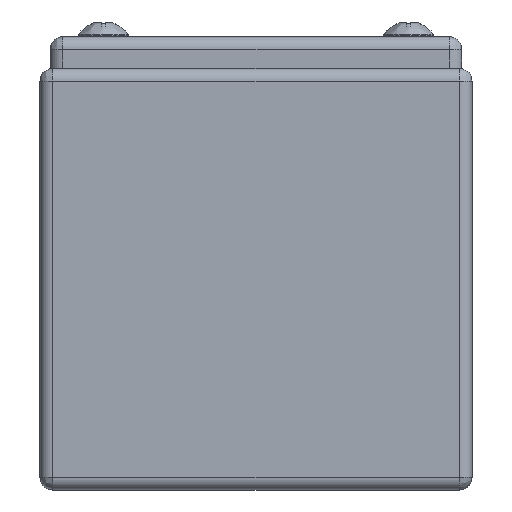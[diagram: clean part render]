
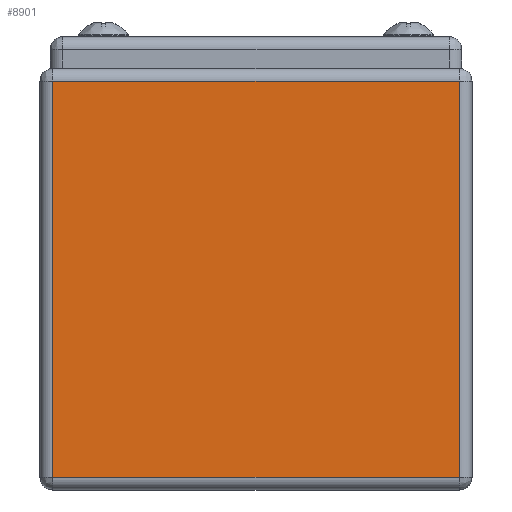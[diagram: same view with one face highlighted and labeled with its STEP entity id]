
A CAD part, front view. The second image highlights one B-rep face of the part: STEP entity #8901.
In plain terms, the highlighted planar face has unit normal (0, -1, 0).
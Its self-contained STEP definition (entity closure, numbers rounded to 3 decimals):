
#21 = EDGE_CURVE ( 'NONE', #14457, #7593, #17178, .T. ) ;
#493 = CARTESIAN_POINT ( 'NONE',  ( 0., 0., 77.6 ) ) ;
#1276 = CARTESIAN_POINT ( 'NONE',  ( 2.4, 0., 78.8 ) ) ;
#1395 = CARTESIAN_POINT ( 'NONE',  ( 79.6, 0., 78.8 ) ) ;
#1967 = EDGE_CURVE ( 'NONE', #8079, #14457, #10256, .T. ) ;
#2354 = EDGE_CURVE ( 'NONE', #7593, #10806, #5129, .T. ) ;
#4145 = ORIENTED_EDGE ( 'NONE', *, *, #21, .F. ) ;
#4776 = CARTESIAN_POINT ( 'NONE',  ( 79.6, 0., 2.4 ) ) ;
#4847 = VECTOR ( 'NONE', #11407, 1000. ) ;
#5078 = CARTESIAN_POINT ( 'NONE',  ( 2.4, 0., 2.4 ) ) ;
#5129 = LINE ( 'NONE', #1395, #4847 ) ;
#5604 = VECTOR ( 'NONE', #7821, 1000. ) ;
#7166 = DIRECTION ( 'NONE',  ( 1., 0., 0. ) ) ;
#7424 = DIRECTION ( 'NONE',  ( 0., 0., 1. ) ) ;
#7593 = VERTEX_POINT ( 'NONE', #12336 ) ;
#7821 = DIRECTION ( 'NONE',  ( -1., 0., 0. ) ) ;
#8079 = VERTEX_POINT ( 'NONE', #5078 ) ;
#8434 = EDGE_CURVE ( 'NONE', #10806, #8079, #19363, .T. ) ;
#8901 = ADVANCED_FACE ( 'NONE', ( #18649 ), #17802, .F. ) ;
#9384 = CARTESIAN_POINT ( 'NONE',  ( 0., 0., 2.4 ) ) ;
#10256 = LINE ( 'NONE', #1276, #18347 ) ;
#10695 = VECTOR ( 'NONE', #7166, 1000. ) ;
#10806 = VERTEX_POINT ( 'NONE', #4776 ) ;
#10920 = CARTESIAN_POINT ( 'NONE',  ( 0., 0., 78.8 ) ) ;
#11407 = DIRECTION ( 'NONE',  ( 0., 0., -1. ) ) ;
#12336 = CARTESIAN_POINT ( 'NONE',  ( 79.6, 0., 77.6 ) ) ;
#13256 = ORIENTED_EDGE ( 'NONE', *, *, #2354, .F. ) ;
#13564 = CARTESIAN_POINT ( 'NONE',  ( 2.4, 0., 77.6 ) ) ;
#14395 = DIRECTION ( 'NONE',  ( 0., 1., 0. ) ) ;
#14457 = VERTEX_POINT ( 'NONE', #13564 ) ;
#14697 = EDGE_LOOP ( 'NONE', ( #13256, #4145, #20017, #18632 ) ) ;
#16594 = DIRECTION ( 'NONE',  ( 0., 0., 1. ) ) ;
#17178 = LINE ( 'NONE', #493, #10695 ) ;
#17802 = PLANE ( 'NONE',  #20340 ) ;
#18347 = VECTOR ( 'NONE', #16594, 1000. ) ;
#18632 = ORIENTED_EDGE ( 'NONE', *, *, #8434, .F. ) ;
#18649 = FACE_OUTER_BOUND ( 'NONE', #14697, .T. ) ;
#19363 = LINE ( 'NONE', #9384, #5604 ) ;
#20017 = ORIENTED_EDGE ( 'NONE', *, *, #1967, .F. ) ;
#20340 = AXIS2_PLACEMENT_3D ( 'NONE', #10920, #14395, #7424 ) ;
